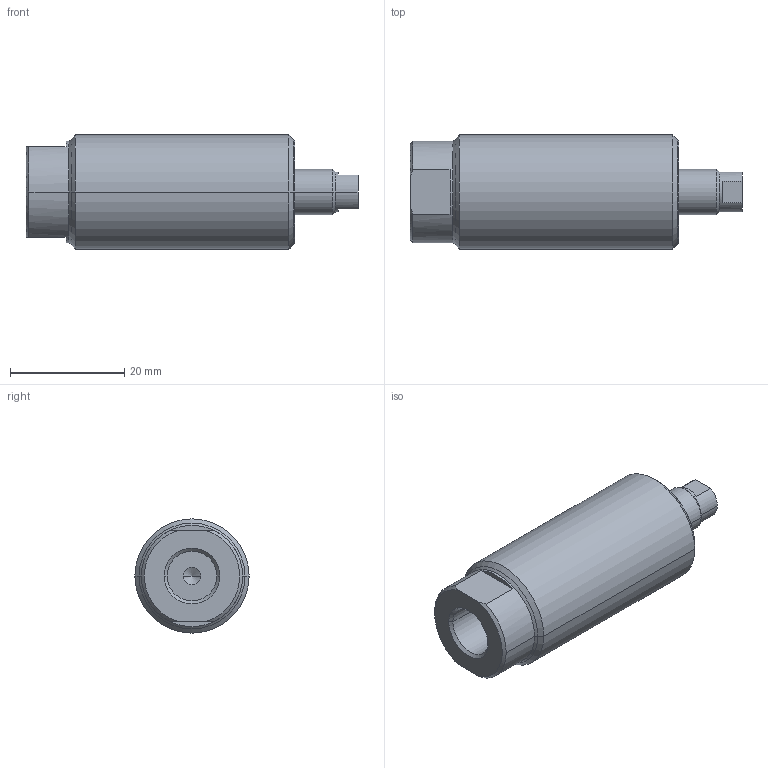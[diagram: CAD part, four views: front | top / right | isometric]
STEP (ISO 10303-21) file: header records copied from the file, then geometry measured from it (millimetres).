
FILE_DESCRIPTION((''),'2;1');
FILE_NAME('CST-572EXTENDED_ASM','2010-11-22T',('chad.steele'),(''),'PRO/ENGINEER BY PARAMETRIC TECHNOLOGY CORPORATION, 2010040','PRO/ENGINEER BY PARAMETRIC TECHNOLOGY CORPORATION, 2010040','');
FILE_SCHEMA(('CONFIG_CONTROL_DESIGN'));
Length unit declared in the file: millimetre
Products named in the file (4): DC6045030; DC6036044; PA2120040; CST-572EXTENDED_ASM
Assembly tree (3 placements, depth 2):
  CST-572EXTENDED_ASM
    DC6045030
    DC6036044
    PA2120040
Bounding box: 58.1 x 20 x 20 mm (x, y, z)
Volume: 11427.5 mm3; surface area: 11017.8 mm2
Topology: 3 solids, 8 shells, 106 faces, 248 edges, 152 vertices
Faces by surface type: cylinder 40, plane 28, cone 28, torus 10
Entity records: 3256 total; most frequent: CARTESIAN_POINT 633, DIRECTION 602, ORIENTED_EDGE 468, AXIS2_PLACEMENT_3D 253, EDGE_CURVE 244, VERTEX_POINT 152, CIRCLE 134, EDGE_LOOP 118
